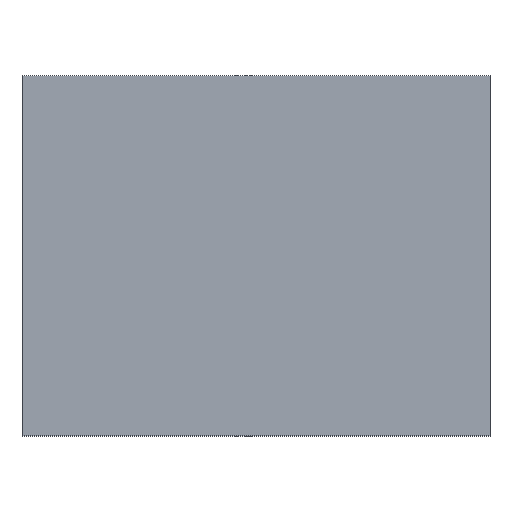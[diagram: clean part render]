
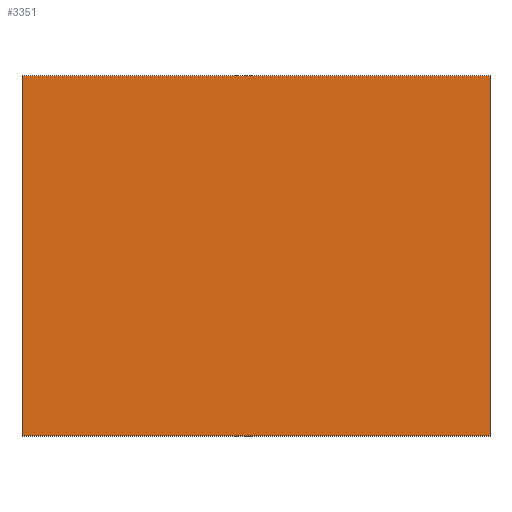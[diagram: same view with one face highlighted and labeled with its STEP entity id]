
A CAD part, top view. The second image highlights one B-rep face of the part: STEP entity #3351.
In plain terms, the highlighted planar face has unit normal (0, 0, 1).
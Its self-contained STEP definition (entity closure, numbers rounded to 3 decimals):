
#3215=CARTESIAN_POINT('Vertex',(108.5,83.5,37.)) ;
#3229=CARTESIAN_POINT('Vertex',(-108.5,83.5,37.)) ;
#3232=CARTESIAN_POINT('Line Origine',(0.,83.5,37.)) ;
#3260=CARTESIAN_POINT('Vertex',(-108.5,-83.5,37.)) ;
#3263=CARTESIAN_POINT('Line Origine',(-108.5,0.,37.)) ;
#3291=CARTESIAN_POINT('Vertex',(108.5,-83.5,37.)) ;
#3294=CARTESIAN_POINT('Line Origine',(0.,-83.5,37.)) ;
#3316=CARTESIAN_POINT('Line Origine',(108.5,0.,37.)) ;
#3340=CARTESIAN_POINT('Axis2P3D Location',(0.,0.,37.)) ;
#3233=DIRECTION('Vector Direction',(1.,0.,0.)) ;
#3264=DIRECTION('Vector Direction',(0.,1.,0.)) ;
#3295=DIRECTION('Vector Direction',(-1.,0.,0.)) ;
#3317=DIRECTION('Vector Direction',(0.,-1.,0.)) ;
#3341=DIRECTION('Axis2P3D Direction',(0.,0.,1.)) ;
#3342=DIRECTION('Axis2P3D XDirection',(1.,0.,0.)) ;
#3343=AXIS2_PLACEMENT_3D('Plane Axis2P3D',#3340,#3341,#3342) ;
#3346=ORIENTED_EDGE('',*,*,#3236,.T.) ;
#3347=ORIENTED_EDGE('',*,*,#3267,.T.) ;
#3348=ORIENTED_EDGE('',*,*,#3298,.T.) ;
#3349=ORIENTED_EDGE('',*,*,#3320,.T.) ;
#3234=VECTOR('Line Direction',#3233,1.) ;
#3265=VECTOR('Line Direction',#3264,1.) ;
#3296=VECTOR('Line Direction',#3295,1.) ;
#3318=VECTOR('Line Direction',#3317,1.) ;
#3351=ADVANCED_FACE('cavity',(#3350),#3344,.T.) ;
#3236=EDGE_CURVE('',#3216,#3230,#3235,.F.) ;
#3267=EDGE_CURVE('',#3230,#3261,#3266,.F.) ;
#3298=EDGE_CURVE('',#3261,#3292,#3297,.F.) ;
#3320=EDGE_CURVE('',#3292,#3216,#3319,.F.) ;
#3345=EDGE_LOOP('',(#3346,#3347,#3348,#3349)) ;
#3350=FACE_OUTER_BOUND('',#3345,.T.) ;
#3235=LINE('Line',#3232,#3234) ;
#3266=LINE('Line',#3263,#3265) ;
#3297=LINE('Line',#3294,#3296) ;
#3319=LINE('Line',#3316,#3318) ;
#3344=PLANE('Plane',#3343) ;
#3216=VERTEX_POINT('',#3215) ;
#3230=VERTEX_POINT('',#3229) ;
#3261=VERTEX_POINT('',#3260) ;
#3292=VERTEX_POINT('',#3291) ;
